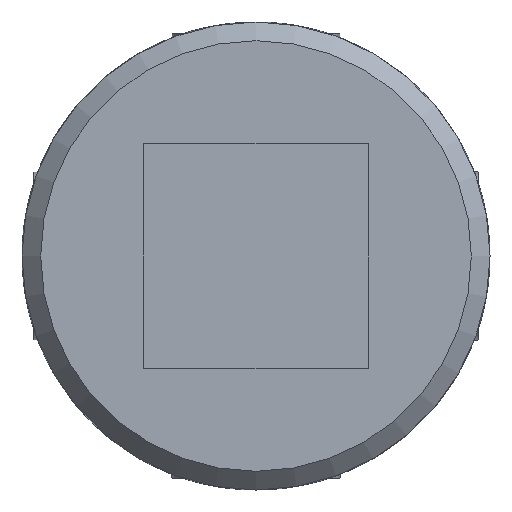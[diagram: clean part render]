
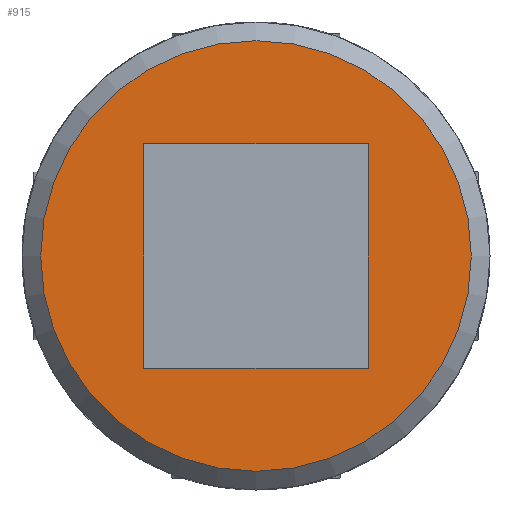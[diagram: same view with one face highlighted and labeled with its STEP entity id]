
A CAD part, front view. The second image highlights one B-rep face of the part: STEP entity #915.
In plain terms, the highlighted planar face has unit normal (0, -1, 0).
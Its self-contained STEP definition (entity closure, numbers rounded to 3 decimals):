
#102=LINE('',#1367,#142);
#106=LINE('',#1390,#146);
#112=LINE('',#1428,#152);
#115=LINE('',#1448,#155);
#142=VECTOR('',#1120,12.);
#146=VECTOR('',#1128,12.);
#152=VECTOR('',#1136,12.);
#155=VECTOR('',#1143,12.);
#182=PLANE('',#995);
#207=FACE_BOUND('',#311,.T.);
#240=FACE_OUTER_BOUND('',#310,.T.);
#310=EDGE_LOOP('',(#729));
#311=EDGE_LOOP('',(#730,#731,#732,#733));
#364=CIRCLE('',#993,11.5);
#408=VERTEX_POINT('',#1364);
#409=VERTEX_POINT('',#1366);
#415=VERTEX_POINT('',#1389);
#424=VERTEX_POINT('',#1426);
#431=VERTEX_POINT('',#1493);
#503=EDGE_CURVE('',#409,#408,#102,.T.);
#510=EDGE_CURVE('',#415,#409,#106,.T.);
#520=EDGE_CURVE('',#408,#424,#112,.T.);
#526=EDGE_CURVE('',#424,#415,#115,.T.);
#537=EDGE_CURVE('',#431,#431,#364,.T.);
#729=ORIENTED_EDGE('',*,*,#537,.F.);
#730=ORIENTED_EDGE('',*,*,#503,.T.);
#731=ORIENTED_EDGE('',*,*,#520,.T.);
#732=ORIENTED_EDGE('',*,*,#526,.T.);
#733=ORIENTED_EDGE('',*,*,#510,.T.);
#915=ADVANCED_FACE('',(#240,#207),#182,.F.);
#993=AXIS2_PLACEMENT_3D('',#1494,#1172,#1173);
#995=AXIS2_PLACEMENT_3D('',#1710,#1180,#1181);
#1120=DIRECTION('',(0.,0.,-1.));
#1128=DIRECTION('',(1.,0.,0.));
#1136=DIRECTION('',(-1.,0.,0.));
#1143=DIRECTION('',(0.,0.,1.));
#1172=DIRECTION('center_axis',(0.,1.,0.));
#1173=DIRECTION('ref_axis',(1.,0.,0.));
#1180=DIRECTION('center_axis',(0.,1.,0.));
#1181=DIRECTION('ref_axis',(0.,0.,1.));
#1364=CARTESIAN_POINT('',(6.,-34.5,-6.));
#1366=CARTESIAN_POINT('',(6.,-34.5,6.));
#1367=CARTESIAN_POINT('',(6.,-34.5,3.));
#1389=CARTESIAN_POINT('',(-6.,-34.5,6.));
#1390=CARTESIAN_POINT('',(-3.,-34.5,6.));
#1426=CARTESIAN_POINT('',(-6.,-34.5,-6.));
#1428=CARTESIAN_POINT('',(3.,-34.5,-6.));
#1448=CARTESIAN_POINT('',(-6.,-34.5,-3.));
#1493=CARTESIAN_POINT('',(-11.5,-34.5,0.));
#1494=CARTESIAN_POINT('Origin',(0.,-34.5,0.));
#1710=CARTESIAN_POINT('Origin',(0.,-34.5,0.));
